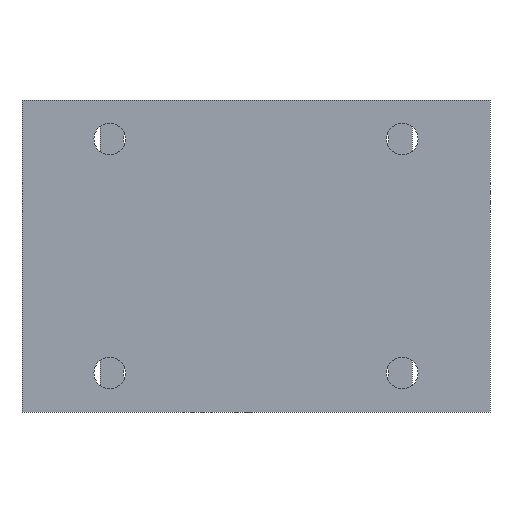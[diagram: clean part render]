
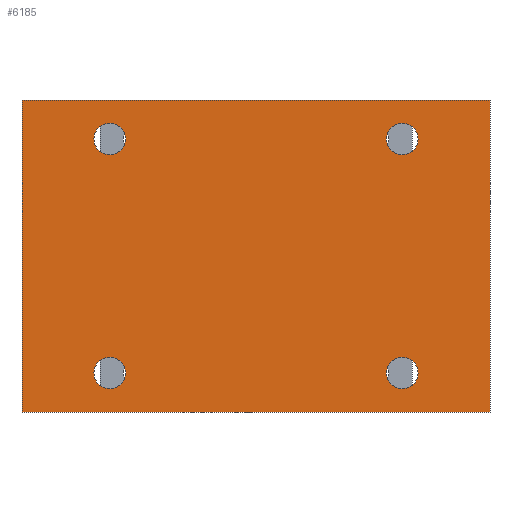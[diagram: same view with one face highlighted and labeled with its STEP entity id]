
A CAD part, front view. The second image highlights one B-rep face of the part: STEP entity #6185.
In plain terms, the highlighted planar face has unit normal (0, -1, 0).
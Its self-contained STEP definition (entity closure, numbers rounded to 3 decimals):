
#394=FACE_BOUND('',#984,.T.);
#395=FACE_BOUND('',#985,.T.);
#396=FACE_BOUND('',#986,.T.);
#397=FACE_BOUND('',#987,.T.);
#461=PLANE('',#6644);
#608=FACE_OUTER_BOUND('',#983,.T.);
#983=EDGE_LOOP('',(#4253,#4254,#4255,#4256));
#984=EDGE_LOOP('',(#4257));
#985=EDGE_LOOP('',(#4258));
#986=EDGE_LOOP('',(#4259));
#987=EDGE_LOOP('',(#4260));
#1413=LINE('',#8852,#1896);
#1417=LINE('',#8860,#1900);
#1420=LINE('',#8866,#1903);
#1423=LINE('',#8871,#1906);
#1896=VECTOR('',#7306,10.);
#1900=VECTOR('',#7312,10.);
#1903=VECTOR('',#7317,10.);
#1906=VECTOR('',#7322,10.);
#2340=CIRCLE('',#6629,10.3);
#2342=CIRCLE('',#6632,10.3);
#2344=CIRCLE('',#6635,10.3);
#2346=CIRCLE('',#6638,10.3);
#2537=VERTEX_POINT('',#8828);
#2539=VERTEX_POINT('',#8834);
#2541=VERTEX_POINT('',#8840);
#2543=VERTEX_POINT('',#8846);
#2544=VERTEX_POINT('',#8850);
#2545=VERTEX_POINT('',#8851);
#2548=VERTEX_POINT('',#8859);
#2550=VERTEX_POINT('',#8865);
#3187=EDGE_CURVE('',#2537,#2537,#2340,.T.);
#3190=EDGE_CURVE('',#2539,#2539,#2342,.T.);
#3193=EDGE_CURVE('',#2541,#2541,#2344,.T.);
#3196=EDGE_CURVE('',#2543,#2543,#2346,.T.);
#3197=EDGE_CURVE('',#2544,#2545,#1413,.T.);
#3201=EDGE_CURVE('',#2545,#2548,#1417,.T.);
#3204=EDGE_CURVE('',#2548,#2550,#1420,.T.);
#3207=EDGE_CURVE('',#2550,#2544,#1423,.T.);
#4253=ORIENTED_EDGE('',*,*,#3207,.T.);
#4254=ORIENTED_EDGE('',*,*,#3197,.T.);
#4255=ORIENTED_EDGE('',*,*,#3201,.T.);
#4256=ORIENTED_EDGE('',*,*,#3204,.T.);
#4257=ORIENTED_EDGE('',*,*,#3196,.F.);
#4258=ORIENTED_EDGE('',*,*,#3193,.F.);
#4259=ORIENTED_EDGE('',*,*,#3190,.F.);
#4260=ORIENTED_EDGE('',*,*,#3187,.F.);
#6185=ADVANCED_FACE('',(#608,#394,#395,#396,#397),#461,.F.);
#6629=AXIS2_PLACEMENT_3D('',#8830,#7281,#7282);
#6632=AXIS2_PLACEMENT_3D('',#8836,#7288,#7289);
#6635=AXIS2_PLACEMENT_3D('',#8842,#7295,#7296);
#6638=AXIS2_PLACEMENT_3D('',#8848,#7302,#7303);
#6644=AXIS2_PLACEMENT_3D('',#8874,#7326,#7327);
#7281=DIRECTION('center_axis',(0.,-1.,0.));
#7282=DIRECTION('ref_axis',(1.,0.,0.));
#7288=DIRECTION('center_axis',(0.,-1.,0.));
#7289=DIRECTION('ref_axis',(1.,0.,0.));
#7295=DIRECTION('center_axis',(0.,-1.,0.));
#7296=DIRECTION('ref_axis',(1.,0.,0.));
#7302=DIRECTION('center_axis',(0.,-1.,0.));
#7303=DIRECTION('ref_axis',(1.,0.,0.));
#7306=DIRECTION('',(0.,0.,1.));
#7312=DIRECTION('',(-1.,0.,0.));
#7317=DIRECTION('',(0.,0.,-1.));
#7322=DIRECTION('',(1.,0.,0.));
#7326=DIRECTION('center_axis',(0.,1.,0.));
#7327=DIRECTION('ref_axis',(1.,0.,0.));
#8828=CARTESIAN_POINT('',(-105.55,0.,-76.2));
#8830=CARTESIAN_POINT('Origin',(-95.25,0.,-76.2));
#8834=CARTESIAN_POINT('',(-105.55,0.,76.2));
#8836=CARTESIAN_POINT('Origin',(-95.25,0.,76.2));
#8840=CARTESIAN_POINT('',(84.95,0.,-76.2));
#8842=CARTESIAN_POINT('Origin',(95.25,0.,-76.2));
#8846=CARTESIAN_POINT('',(84.95,0.,76.2));
#8848=CARTESIAN_POINT('Origin',(95.25,0.,76.2));
#8850=CARTESIAN_POINT('',(152.4,0.,-101.6));
#8851=CARTESIAN_POINT('',(152.4,0.,101.6));
#8852=CARTESIAN_POINT('',(152.4,0.,-101.6));
#8859=CARTESIAN_POINT('',(-152.4,0.,101.6));
#8860=CARTESIAN_POINT('',(152.4,0.,101.6));
#8865=CARTESIAN_POINT('',(-152.4,0.,-101.6));
#8866=CARTESIAN_POINT('',(-152.4,0.,101.6));
#8871=CARTESIAN_POINT('',(-152.4,0.,-101.6));
#8874=CARTESIAN_POINT('Origin',(0.,0.,0.));
